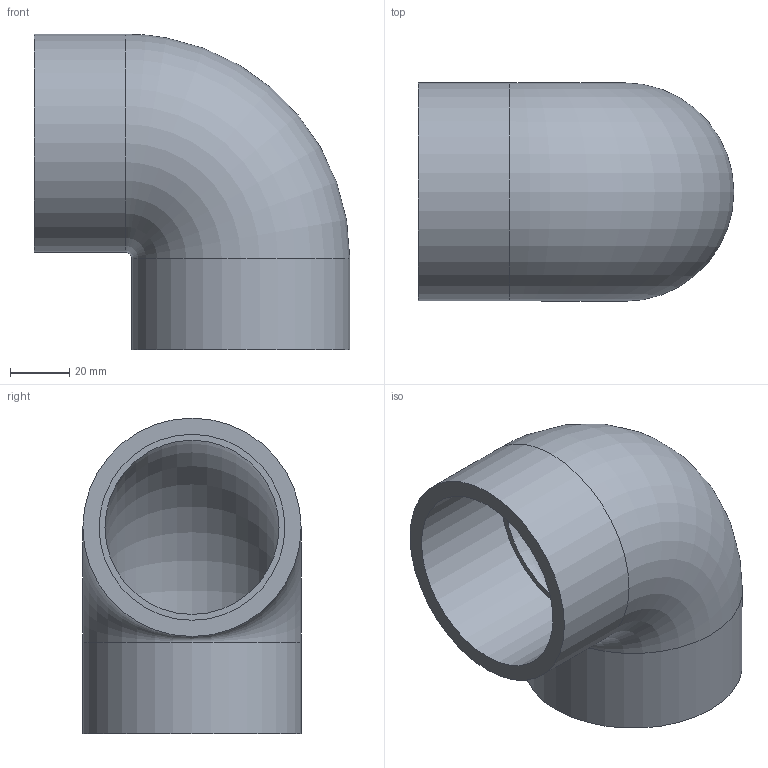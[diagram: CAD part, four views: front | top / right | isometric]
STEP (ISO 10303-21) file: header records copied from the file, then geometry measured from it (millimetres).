
FILE_DESCRIPTION(/* description */ ('PVC Elbow 90° solvent cement metric'),/* implementation_level */ '2;1');
FILE_NAME(/* name */ 'C:\Users\POLYPIPE\Desktop\DATASET INVENTOR\LIBRERIA EFFAST\RACCORDI 3DxWEB\RDR\3D_RDRGOD\3D_RDRGOD0630.stp',/* time_stamp */ '2018-01-19T14:27:50+01:00',/* author */ ('POLYPIPE'),/* organization */ ('Polypipe Italia s.r.l.'),/* preprocessor_version */ 'ST-DEVELOPER v16.1',/* originating_system */ 'Autodesk Inventor 2016',/* authorisation */ '');
FILE_SCHEMA (('CONFIG_CONTROL_DESIGN'));
Length unit declared in the file: millimetre
Products named in the file (1): 3D_RDRGOD
Bounding box: 107 x 74 x 107 mm (x, y, z)
Volume: 155791.1 mm3; surface area: 56148.1 mm2
Topology: 1 solids, 1 shells, 10 faces, 16 edges, 10 vertices
Faces by surface type: cylinder 4, plane 4, torus 2
Full cylindrical faces by diameter (mm): 63 x2, 74 x2
Entity records: 232 total; most frequent: DIRECTION 42, CARTESIAN_POINT 31, AXIS2_PLACEMENT_3D 21, EDGE_LOOP 20, ORIENTED_EDGE 20, FACE_BOUND 10, FACE_OUTER_BOUND 10, CIRCLE 10
